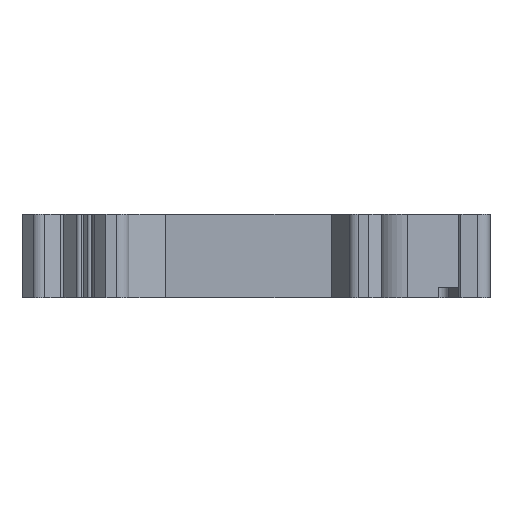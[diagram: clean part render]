
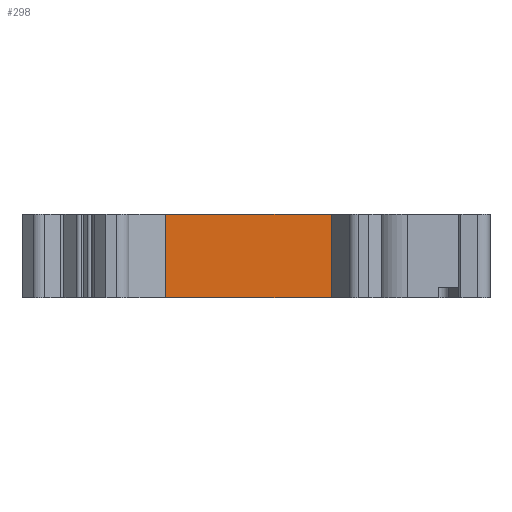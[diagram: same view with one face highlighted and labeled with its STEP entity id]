
A CAD part, left-side view. The second image highlights one B-rep face of the part: STEP entity #298.
In plain terms, the highlighted planar face has unit normal (-1, 0, 0).
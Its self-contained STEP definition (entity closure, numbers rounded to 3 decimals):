
#298=ADVANCED_FACE('',(#550),#451,.T.);
#451=PLANE('',#3353);
#550=FACE_OUTER_BOUND('',#708,.T.);
#708=EDGE_LOOP('',(#1187,#1188,#1189,#1190));
#1187=ORIENTED_EDGE('',*,*,#2243,.F.);
#1188=ORIENTED_EDGE('',*,*,#2385,.F.);
#1189=ORIENTED_EDGE('',*,*,#2205,.T.);
#1190=ORIENTED_EDGE('',*,*,#2386,.T.);
#1898=VERTEX_POINT('',#4642);
#1899=VERTEX_POINT('',#4644);
#1936=VERTEX_POINT('',#4719);
#1937=VERTEX_POINT('',#4721);
#2205=EDGE_CURVE('',#1899,#1898,#2620,.T.);
#2243=EDGE_CURVE('',#1936,#1937,#2644,.T.);
#2385=EDGE_CURVE('',#1899,#1936,#2736,.T.);
#2386=EDGE_CURVE('',#1898,#1937,#2737,.T.);
#2620=LINE('',#4643,#2967);
#2644=LINE('',#4720,#2991);
#2736=LINE('',#5003,#3083);
#2737=LINE('',#5005,#3084);
#2967=VECTOR('',#3677,1.);
#2991=VECTOR('',#3731,1.);
#3083=VECTOR('',#3941,1.);
#3084=VECTOR('',#3944,1.);
#3353=AXIS2_PLACEMENT_3D('',#5006,#3945,#3946);
#3677=DIRECTION('',(0.,1.,0.));
#3731=DIRECTION('',(0.,1.,0.));
#3941=DIRECTION('',(0.,0.,-1.));
#3944=DIRECTION('',(0.,0.,-1.));
#3945=DIRECTION('',(-1.,0.,0.));
#3946=DIRECTION('',(0.,0.,1.));
#4642=CARTESIAN_POINT('',(124.93,-14.1,8.2));
#4643=CARTESIAN_POINT('',(124.93,-30.4,8.2));
#4644=CARTESIAN_POINT('',(124.93,-30.4,8.2));
#4719=CARTESIAN_POINT('',(124.93,-30.4,0.));
#4720=CARTESIAN_POINT('',(124.93,-30.4,0.));
#4721=CARTESIAN_POINT('',(124.93,-14.1,0.));
#5003=CARTESIAN_POINT('',(124.93,-30.4,8.2));
#5005=CARTESIAN_POINT('',(124.93,-14.1,8.2));
#5006=CARTESIAN_POINT('',(124.93,-30.4,8.2));
